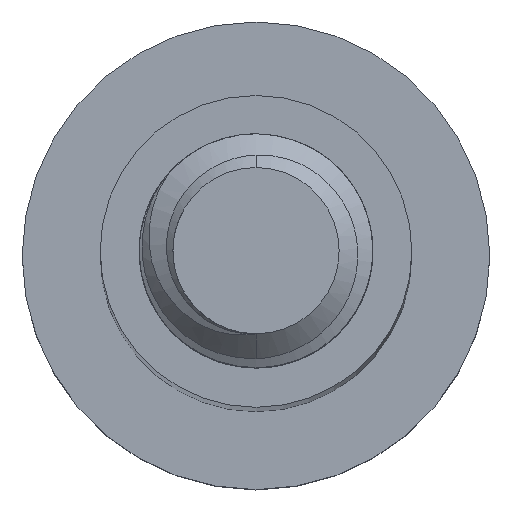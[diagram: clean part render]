
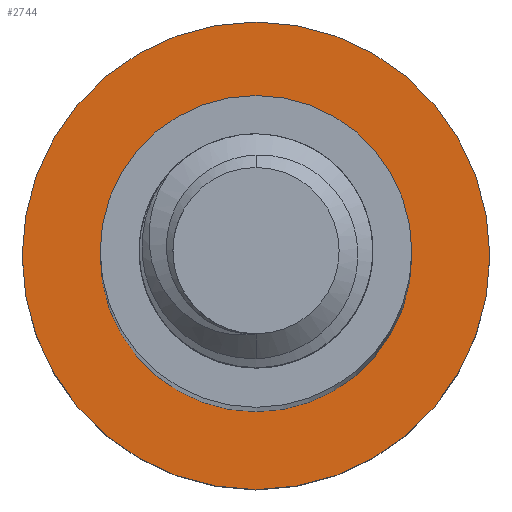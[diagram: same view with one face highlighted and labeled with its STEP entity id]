
A CAD part, top view. The second image highlights one B-rep face of the part: STEP entity #2744.
In plain terms, the highlighted planar face has unit normal (0, 0, 1).
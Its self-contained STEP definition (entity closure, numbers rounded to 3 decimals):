
#29 = AXIS2_PLACEMENT_3D ( 'NONE', #3398, #4035, #4054 ) ;
#89 = DIRECTION ( 'NONE',  ( -1., 0., 0. ) ) ;
#90 = AXIS2_PLACEMENT_3D ( 'NONE', #504, #1792, #1771 ) ;
#216 = CARTESIAN_POINT ( 'NONE',  ( 0., 0., -65. ) ) ;
#262 = ORIENTED_EDGE ( 'NONE', *, *, #3905, .T. ) ;
#371 = EDGE_CURVE ( 'NONE', #2971, #3836, #2087, .T. ) ;
#378 = CARTESIAN_POINT ( 'NONE',  ( -4., 0., -65. ) ) ;
#503 = AXIS2_PLACEMENT_3D ( 'NONE', #4043, #2414, #89 ) ;
#504 = CARTESIAN_POINT ( 'NONE',  ( 0., 0., -65. ) ) ;
#540 = ORIENTED_EDGE ( 'NONE', *, *, #371, .F. ) ;
#1115 = DIRECTION ( 'NONE',  ( 0., 0., -1. ) ) ;
#1137 = AXIS2_PLACEMENT_3D ( 'NONE', #1868, #1504, #2495 ) ;
#1300 = EDGE_CURVE ( 'NONE', #3836, #2971, #3750, .T. ) ;
#1366 = FACE_OUTER_BOUND ( 'NONE', #3435, .T. ) ;
#1504 = DIRECTION ( 'NONE',  ( 0., 0., -1. ) ) ;
#1751 = CARTESIAN_POINT ( 'NONE',  ( -6., 0., -65. ) ) ;
#1771 = DIRECTION ( 'NONE',  ( -1., 0., 0. ) ) ;
#1792 = DIRECTION ( 'NONE',  ( 0., 0., -1. ) ) ;
#1805 = AXIS2_PLACEMENT_3D ( 'NONE', #216, #1115, #2418 ) ;
#1868 = CARTESIAN_POINT ( 'NONE',  ( 0., 0., -65. ) ) ;
#2030 = PLANE ( 'NONE',  #503 ) ;
#2083 = CIRCLE ( 'NONE', #1805, 4. ) ;
#2087 = CIRCLE ( 'NONE', #1137, 6. ) ;
#2175 = CARTESIAN_POINT ( 'NONE',  ( 6., 0., -65. ) ) ;
#2284 = ORIENTED_EDGE ( 'NONE', *, *, #3910, .T. ) ;
#2414 = DIRECTION ( 'NONE',  ( 0., 0., -1. ) ) ;
#2418 = DIRECTION ( 'NONE',  ( -1., 0., 0. ) ) ;
#2495 = DIRECTION ( 'NONE',  ( -1., 0., 0. ) ) ;
#2625 = VERTEX_POINT ( 'NONE', #378 ) ;
#2744 = ADVANCED_FACE ( 'NONE', ( #3040, #1366 ), #2030, .F. ) ;
#2832 = VERTEX_POINT ( 'NONE', #3735 ) ;
#2971 = VERTEX_POINT ( 'NONE', #2175 ) ;
#2982 = CIRCLE ( 'NONE', #90, 4. ) ;
#3040 = FACE_BOUND ( 'NONE', #3665, .T. ) ;
#3249 = ORIENTED_EDGE ( 'NONE', *, *, #1300, .F. ) ;
#3398 = CARTESIAN_POINT ( 'NONE',  ( 0., 0., -65. ) ) ;
#3435 = EDGE_LOOP ( 'NONE', ( #540, #3249 ) ) ;
#3665 = EDGE_LOOP ( 'NONE', ( #2284, #262 ) ) ;
#3735 = CARTESIAN_POINT ( 'NONE',  ( 4., 0., -65. ) ) ;
#3750 = CIRCLE ( 'NONE', #29, 6. ) ;
#3836 = VERTEX_POINT ( 'NONE', #1751 ) ;
#3905 = EDGE_CURVE ( 'NONE', #2832, #2625, #2982, .T. ) ;
#3910 = EDGE_CURVE ( 'NONE', #2625, #2832, #2083, .T. ) ;
#4035 = DIRECTION ( 'NONE',  ( 0., 0., -1. ) ) ;
#4043 = CARTESIAN_POINT ( 'NONE',  ( 0., 0., -65. ) ) ;
#4054 = DIRECTION ( 'NONE',  ( -1., 0., 0. ) ) ;
